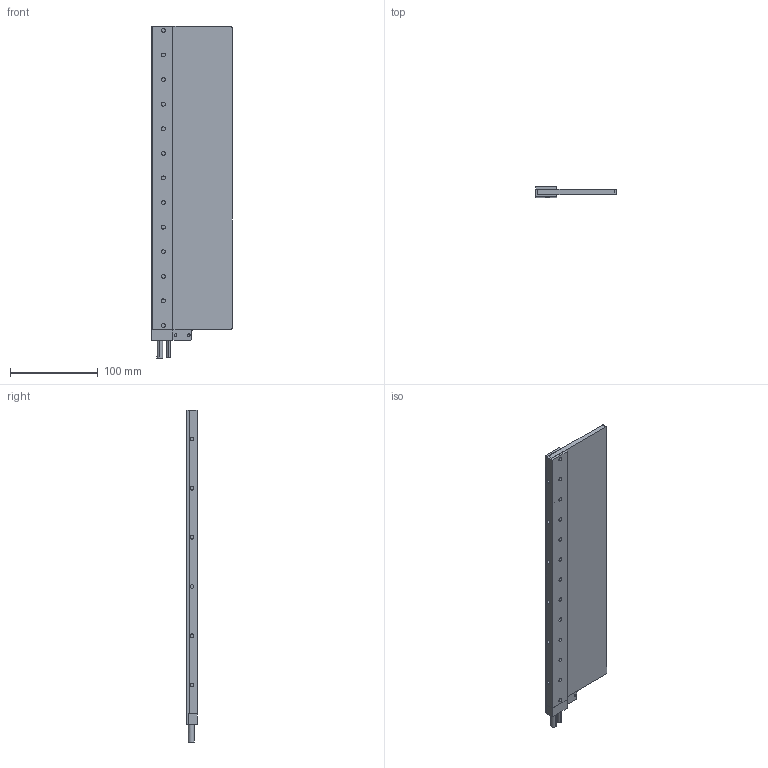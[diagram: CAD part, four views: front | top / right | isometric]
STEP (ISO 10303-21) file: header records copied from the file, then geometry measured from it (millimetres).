
FILE_DESCRIPTION (( 'STEP AP203' ), '1' );
FILE_NAME ('IL12-91 assembly 3D.STEP', '2018-08-11T03:30:51', ( '' ), ( '' ), 'SwSTEP 2.0', 'SolidWorks 2018', '' );
FILE_SCHEMA (( 'CONFIG_CONTROL_DESIGN' ));
Length unit declared in the file: millimetre
Products named in the file (1): IL12-91 assembly 3D
Bounding box: 91.3 x 12 x 378 mm (x, y, z)
Volume: 231514 mm3; surface area: 113580.3 mm2
Topology: 3 solids, 3 shells, 280 faces, 779 edges, 500 vertices
Faces by surface type: cylinder 161, plane 87, cone 32
Entity records: 9347 total; most frequent: CARTESIAN_POINT 1754, DIRECTION 1624, ORIENTED_EDGE 1530, EDGE_CURVE 765, AXIS2_PLACEMENT_3D 602, VERTEX_POINT 500, LINE 420, VECTOR 420
